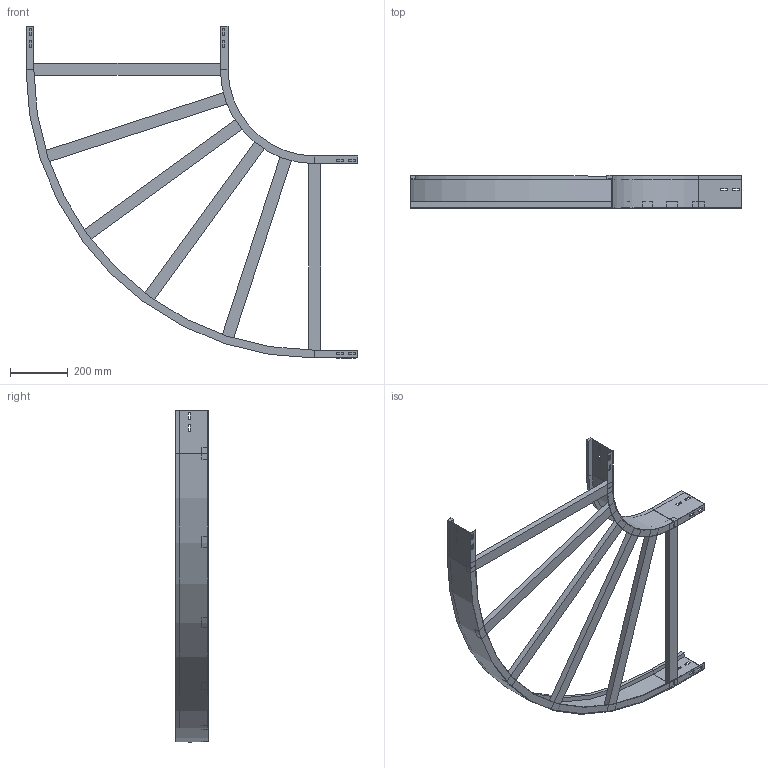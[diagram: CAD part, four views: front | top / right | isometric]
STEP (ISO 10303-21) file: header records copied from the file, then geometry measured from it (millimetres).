
FILE_DESCRIPTION (( 'STEP AP214' ), '1' );
FILE_NAME ('A2_10B3J700.step', '2025-02-21T15:24:51', ( '' ), ( '' ), 'SwSTEP 2.0', 'SolidWorks 2023', '' );
FILE_SCHEMA (( 'AUTOMOTIVE_DESIGN' ));
Length unit declared in the file: millimetre
Products named in the file (4): A2_LONGH.ESTERNO 90°_H112.5_R300+700; A2_10B3J700; A2_LONGH.INTERNO 90°_H112.5_R300; TRAVERSINO_700
Assembly tree (8 placements, depth 2):
  A2_10B3J700
    A2_LONGH.INTERNO 90°_H112.5_R300
    A2_LONGH.ESTERNO 90°_H112.5_R300+700
    TRAVERSINO_700  x6
Bounding box: 1150 x 112.5 x 1150 mm (x, y, z)
Volume: 4611462.4 mm3; surface area: 1335485 mm2
Topology: 8 solids, 8 shells, 152 faces, 376 edges, 240 vertices
Faces by surface type: plane 144, cylinder 8
Entity records: 3845 total; most frequent: CARTESIAN_POINT 649, ORIENTED_EDGE 632, DIRECTION 598, EDGE_CURVE 316, VECTOR 300, LINE 300, VERTEX_POINT 200, EDGE_LOOP 154
